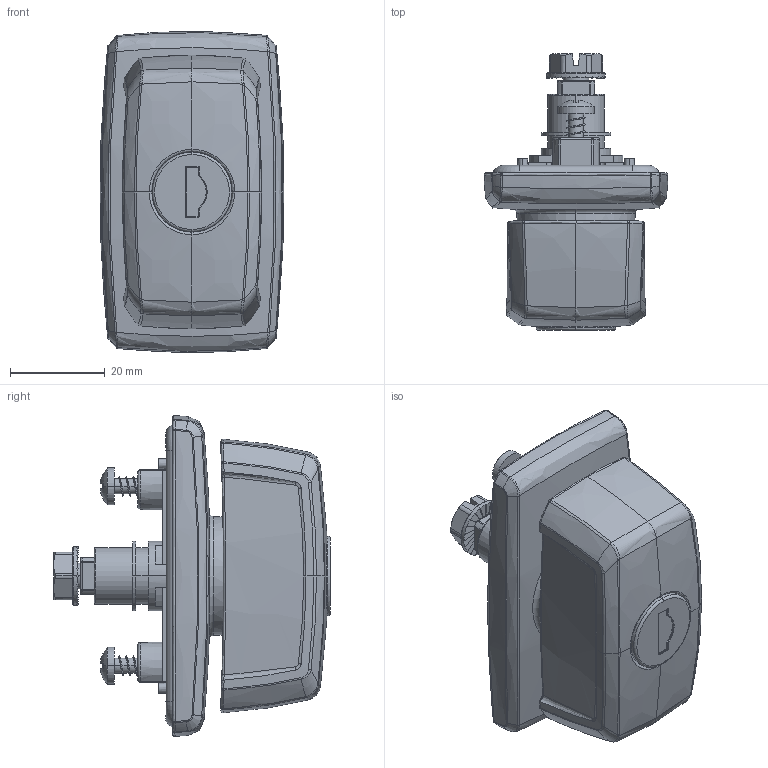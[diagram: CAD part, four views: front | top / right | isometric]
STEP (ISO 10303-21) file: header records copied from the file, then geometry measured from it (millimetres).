
FILE_DESCRIPTION (( 'STEP AP214' ), '1' );
FILE_NAME ('1B.RW210_N.STEP', '2022-02-04T07:08:04', ( '' ), ( '' ), 'SwSTEP 2.0', 'SolidWorks 2021', '' );
FILE_SCHEMA (( 'AUTOMOTIVE_DESIGN' ));
Length unit declared in the file: millimetre
Products named in the file (14): 1C.901.005_L.11; Wkrêt 4,2 x 13_A; 2.B.002_R.1333; DIN 3771_14x2; 1B.RW210_N; P.014741_00-00; 2.PM18.001.03_A; DIN 915_M3 x 5; P.014911; 1B.RW200.02.02.00_B; Podk³adka teflonowa_A; 1B.RW200.00.03_A; A.002122_00-00; DIN 6921_M6x14
Assembly tree (14 placements, depth 3):
  1B.RW210_N
    P.014741_00-00
    A.002122_00-00
      P.014911
      1B.RW200.02.02.00_B
    2.B.002_R.1333
    DIN 915_M3 x 5
    2.PM18.001.03_A
    DIN 3771_14x2
    1B.RW200.00.03_A
    Wkrêt 4,2 x 13_A  x2
    Podk³adka teflonowa_A
    1C.901.005_L.11
    DIN 6921_M6x14
Bounding box: 38.8 x 58.55 x 67.88 mm (x, y, z)
Volume: 40877.7 mm3; surface area: 33348.7 mm2
Topology: 14 solids, 14 shells, 1535 faces, 3742 edges, 2185 vertices
Faces by surface type: bspline 500, plane 412, cylinder 352, torus 132, cone 82, sphere 57
Entity records: 61746 total; most frequent: CARTESIAN_POINT 30229, ORIENTED_EDGE 7098, DIRECTION 5432, EDGE_CURVE 3549, AXIS2_PLACEMENT_3D 2173, VERTEX_POINT 2099, EDGE_LOOP 1510, FACE_OUTER_BOUND 1481
